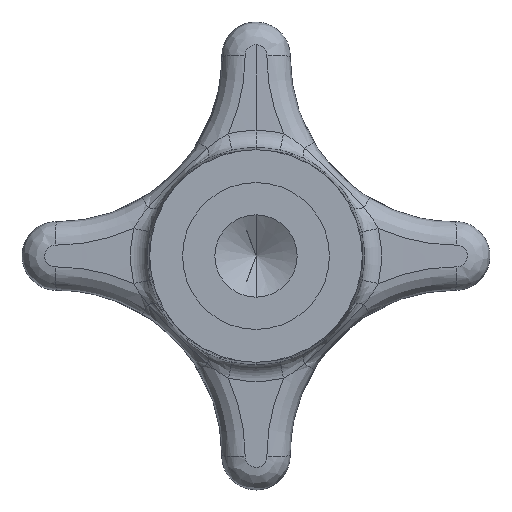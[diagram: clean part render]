
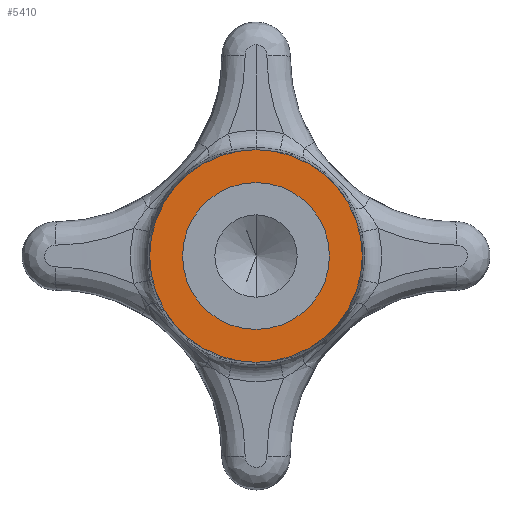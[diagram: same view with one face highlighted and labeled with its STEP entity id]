
A CAD part, front view. The second image highlights one B-rep face of the part: STEP entity #5410.
In plain terms, the highlighted planar face has unit normal (0, -1, 0).
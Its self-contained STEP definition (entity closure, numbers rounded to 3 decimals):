
#9 = VERTEX_POINT ( 'NONE', #3296 ) ;
#180 = DIRECTION ( 'NONE',  ( 0., -1., 0. ) ) ;
#628 = CARTESIAN_POINT ( 'NONE',  ( 0., 17., 0. ) ) ;
#727 = CARTESIAN_POINT ( 'NONE',  ( 0., 17., 0. ) ) ;
#996 = EDGE_CURVE ( 'NONE', #1944, #1005, #1132, .T. ) ;
#1005 = VERTEX_POINT ( 'NONE', #5117 ) ;
#1132 = CIRCLE ( 'NONE', #3505, 12.5 ) ;
#1251 = DIRECTION ( 'NONE',  ( -1., 0., 0. ) ) ;
#1268 = EDGE_CURVE ( 'NONE', #2510, #9, #2589, .T. ) ;
#1370 = CARTESIAN_POINT ( 'NONE',  ( 12.5, 17., 0. ) ) ;
#1692 = CIRCLE ( 'NONE', #3787, 18.094 ) ;
#1902 = DIRECTION ( 'NONE',  ( 1., 0., 0. ) ) ;
#1942 = CARTESIAN_POINT ( 'NONE',  ( 0., 17., 0. ) ) ;
#1944 = VERTEX_POINT ( 'NONE', #1370 ) ;
#2310 = ORIENTED_EDGE ( 'NONE', *, *, #3737, .F. ) ;
#2354 = DIRECTION ( 'NONE',  ( 0., -1., 0. ) ) ;
#2453 = DIRECTION ( 'NONE',  ( -1., 0., 0. ) ) ;
#2510 = VERTEX_POINT ( 'NONE', #4020 ) ;
#2533 = ORIENTED_EDGE ( 'NONE', *, *, #3634, .T. ) ;
#2589 = CIRCLE ( 'NONE', #2760, 18.094 ) ;
#2613 = DIRECTION ( 'NONE',  ( 0., 1., 0. ) ) ;
#2711 = DIRECTION ( 'NONE',  ( -1., 0., 0. ) ) ;
#2760 = AXIS2_PLACEMENT_3D ( 'NONE', #1942, #180, #2711 ) ;
#3011 = CARTESIAN_POINT ( 'NONE',  ( 12.5, 17., 0. ) ) ;
#3047 = EDGE_LOOP ( 'NONE', ( #2533, #3881 ) ) ;
#3112 = EDGE_LOOP ( 'NONE', ( #3972, #2310 ) ) ;
#3234 = CIRCLE ( 'NONE', #5333, 12.5 ) ;
#3296 = CARTESIAN_POINT ( 'NONE',  ( 0., 17., 18.094 ) ) ;
#3338 = AXIS2_PLACEMENT_3D ( 'NONE', #3011, #2613, #1251 ) ;
#3450 = FACE_OUTER_BOUND ( 'NONE', #3047, .T. ) ;
#3505 = AXIS2_PLACEMENT_3D ( 'NONE', #628, #2354, #1902 ) ;
#3634 = EDGE_CURVE ( 'NONE', #9, #2510, #1692, .T. ) ;
#3737 = EDGE_CURVE ( 'NONE', #1005, #1944, #3234, .T. ) ;
#3787 = AXIS2_PLACEMENT_3D ( 'NONE', #4720, #4231, #2453 ) ;
#3881 = ORIENTED_EDGE ( 'NONE', *, *, #1268, .T. ) ;
#3905 = FACE_BOUND ( 'NONE', #3112, .T. ) ;
#3972 = ORIENTED_EDGE ( 'NONE', *, *, #996, .F. ) ;
#4020 = CARTESIAN_POINT ( 'NONE',  ( 0., 17., -18.094 ) ) ;
#4145 = DIRECTION ( 'NONE',  ( 1., 0., 0. ) ) ;
#4231 = DIRECTION ( 'NONE',  ( 0., -1., 0. ) ) ;
#4720 = CARTESIAN_POINT ( 'NONE',  ( 0., 17., 0. ) ) ;
#5117 = CARTESIAN_POINT ( 'NONE',  ( -12.5, 17., 0. ) ) ;
#5333 = AXIS2_PLACEMENT_3D ( 'NONE', #727, #5577, #4145 ) ;
#5410 = ADVANCED_FACE ( 'NONE', ( #3450, #3905 ), #5624, .F. ) ;
#5577 = DIRECTION ( 'NONE',  ( 0., -1., 0. ) ) ;
#5624 = PLANE ( 'NONE',  #3338 ) ;
